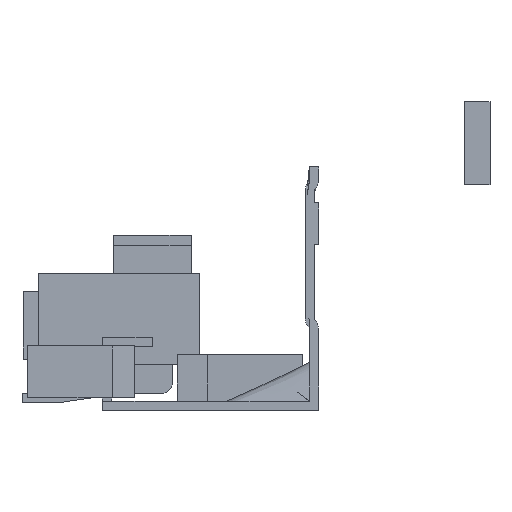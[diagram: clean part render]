
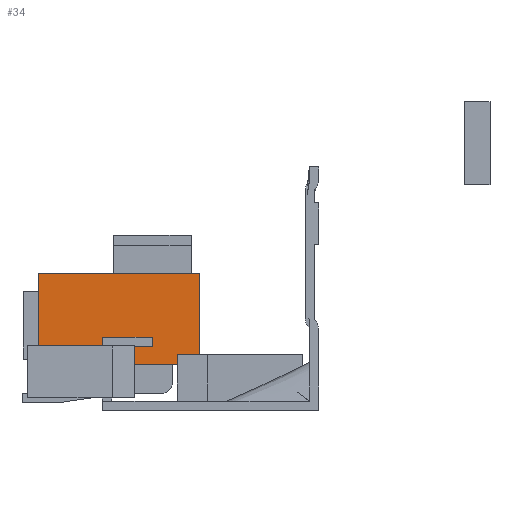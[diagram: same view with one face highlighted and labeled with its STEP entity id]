
A CAD part, front view. The second image highlights one B-rep face of the part: STEP entity #34.
In plain terms, the highlighted planar face has unit normal (0, -1, 0).
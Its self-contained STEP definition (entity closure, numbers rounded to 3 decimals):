
#34 = ADVANCED_FACE ( 'NONE', ( #1093 ), #1443, .F. ) ;
#50 = EDGE_LOOP ( 'NONE', ( #513, #512, #511, #510, #509, #508, #507, #506, #505, #504, #503, #502 ) ) ;
#502 = ORIENTED_EDGE ( 'NONE', *, *, #3836, .T. ) ;
#503 = ORIENTED_EDGE ( 'NONE', *, *, #3837, .F. ) ;
#504 = ORIENTED_EDGE ( 'NONE', *, *, #3838, .F. ) ;
#505 = ORIENTED_EDGE ( 'NONE', *, *, #3839, .F. ) ;
#506 = ORIENTED_EDGE ( 'NONE', *, *, #3850, .F. ) ;
#507 = ORIENTED_EDGE ( 'NONE', *, *, #3866, .F. ) ;
#508 = ORIENTED_EDGE ( 'NONE', *, *, #3876, .T. ) ;
#509 = ORIENTED_EDGE ( 'NONE', *, *, #3890, .T. ) ;
#510 = ORIENTED_EDGE ( 'NONE', *, *, #3840, .T. ) ;
#511 = ORIENTED_EDGE ( 'NONE', *, *, #3841, .T. ) ;
#512 = ORIENTED_EDGE ( 'NONE', *, *, #3842, .T. ) ;
#513 = ORIENTED_EDGE ( 'NONE', *, *, #3843, .T. ) ;
#1093 = FACE_OUTER_BOUND ( 'NONE', #50, .T. ) ;
#1146 = LINE ( 'NONE', #3023, #1147 ) ;
#1147 = VECTOR ( 'NONE', #3024, 1000. ) ;
#1148 = LINE ( 'NONE', #3025, #1149 ) ;
#1149 = VECTOR ( 'NONE', #3026, 1000. ) ;
#1150 = LINE ( 'NONE', #3027, #1151 ) ;
#1151 = VECTOR ( 'NONE', #3028, 1000. ) ;
#1152 = LINE ( 'NONE', #3029, #1153 ) ;
#1153 = VECTOR ( 'NONE', #3030, 1000. ) ;
#1154 = LINE ( 'NONE', #3031, #1155 ) ;
#1155 = VECTOR ( 'NONE', #3032, 1000. ) ;
#1156 = LINE ( 'NONE', #3033, #1157 ) ;
#1157 = VECTOR ( 'NONE', #3034, 1000. ) ;
#1158 = LINE ( 'NONE', #3035, #1159 ) ;
#1159 = VECTOR ( 'NONE', #3036, 1000. ) ;
#1160 = LINE ( 'NONE', #3037, #1161 ) ;
#1161 = VECTOR ( 'NONE', #3038, 1000. ) ;
#1174 = LINE ( 'NONE', #3051, #1175 ) ;
#1175 = VECTOR ( 'NONE', #3052, 1000. ) ;
#1206 = LINE ( 'NONE', #3083, #1207 ) ;
#1207 = VECTOR ( 'NONE', #3084, 1000. ) ;
#1226 = LINE ( 'NONE', #3103, #1227 ) ;
#1227 = VECTOR ( 'NONE', #3104, 1000. ) ;
#1254 = LINE ( 'NONE', #3131, #1255 ) ;
#1255 = VECTOR ( 'NONE', #3132, 1000. ) ;
#1440 = DIRECTION ( 'NONE',  ( -1., 0., 0. ) ) ;
#1441 = DIRECTION ( 'NONE',  ( 0., 1., 0. ) ) ;
#1442 = CARTESIAN_POINT ( 'NONE',  ( -49.9, -20., -27.058 ) ) ;
#1443 = PLANE ( 'NONE',  #4270 ) ;
#1568 = VERTEX_POINT ( 'NONE', #2769 ) ;
#1572 = VERTEX_POINT ( 'NONE', #2773 ) ;
#1573 = VERTEX_POINT ( 'NONE', #2774 ) ;
#1578 = VERTEX_POINT ( 'NONE', #2779 ) ;
#1581 = VERTEX_POINT ( 'NONE', #2782 ) ;
#1582 = VERTEX_POINT ( 'NONE', #2783 ) ;
#1611 = VERTEX_POINT ( 'NONE', #2812 ) ;
#1614 = VERTEX_POINT ( 'NONE', #2815 ) ;
#1615 = VERTEX_POINT ( 'NONE', #2816 ) ;
#1621 = VERTEX_POINT ( 'NONE', #2822 ) ;
#1625 = VERTEX_POINT ( 'NONE', #2826 ) ;
#1628 = VERTEX_POINT ( 'NONE', #2829 ) ;
#2769 = CARTESIAN_POINT ( 'NONE',  ( -22.9, -20., -25.181 ) ) ;
#2773 = CARTESIAN_POINT ( 'NONE',  ( -27.15, -20., -25.181 ) ) ;
#2774 = CARTESIAN_POINT ( 'NONE',  ( -35.5, -20., -23.581 ) ) ;
#2779 = CARTESIAN_POINT ( 'NONE',  ( -32., -20., -23.581 ) ) ;
#2782 = CARTESIAN_POINT ( 'NONE',  ( -32., -20., -21.831 ) ) ;
#2783 = CARTESIAN_POINT ( 'NONE',  ( -27.15, -20., -27.058 ) ) ;
#2812 = CARTESIAN_POINT ( 'NONE',  ( -41.6, -20., -23.531 ) ) ;
#2815 = CARTESIAN_POINT ( 'NONE',  ( -41.6, -20., -21.831 ) ) ;
#2816 = CARTESIAN_POINT ( 'NONE',  ( -35.5, -20., -27.058 ) ) ;
#2822 = CARTESIAN_POINT ( 'NONE',  ( -22.9, -20., -9.558 ) ) ;
#2826 = CARTESIAN_POINT ( 'NONE',  ( -53.9, -20., -9.558 ) ) ;
#2829 = CARTESIAN_POINT ( 'NONE',  ( -53.9, -20., -23.531 ) ) ;
#3023 = CARTESIAN_POINT ( 'NONE',  ( -35.5, -20., -27.058 ) ) ;
#3024 = DIRECTION ( 'NONE',  ( 0., 0., -1. ) ) ;
#3025 = CARTESIAN_POINT ( 'NONE',  ( -32., -20., -23.581 ) ) ;
#3026 = DIRECTION ( 'NONE',  ( 1., 0., 0. ) ) ;
#3027 = CARTESIAN_POINT ( 'NONE',  ( -32., -20., -21.831 ) ) ;
#3028 = DIRECTION ( 'NONE',  ( 0., 0., 1. ) ) ;
#3029 = CARTESIAN_POINT ( 'NONE',  ( -41.6, -20., -21.831 ) ) ;
#3030 = DIRECTION ( 'NONE',  ( -1., 0., 0. ) ) ;
#3031 = CARTESIAN_POINT ( 'NONE',  ( -22.9, -20., -27.058 ) ) ;
#3032 = DIRECTION ( 'NONE',  ( 0., 0., 1. ) ) ;
#3033 = CARTESIAN_POINT ( 'NONE',  ( -49.9, -20., -25.181 ) ) ;
#3034 = DIRECTION ( 'NONE',  ( 1., 0., 0. ) ) ;
#3035 = CARTESIAN_POINT ( 'NONE',  ( -27.15, -20., -27.058 ) ) ;
#3036 = DIRECTION ( 'NONE',  ( 0., 0., 1. ) ) ;
#3037 = CARTESIAN_POINT ( 'NONE',  ( -49.9, -20., -27.058 ) ) ;
#3038 = DIRECTION ( 'NONE',  ( 1., 0., 0. ) ) ;
#3051 = CARTESIAN_POINT ( 'NONE',  ( -41.6, -20., -35.931 ) ) ;
#3052 = DIRECTION ( 'NONE',  ( 0., 0., -1. ) ) ;
#3083 = CARTESIAN_POINT ( 'NONE',  ( -49.9, -20., -23.531 ) ) ;
#3084 = DIRECTION ( 'NONE',  ( -1., 0., 0. ) ) ;
#3103 = CARTESIAN_POINT ( 'NONE',  ( -53.9, -20., -29.558 ) ) ;
#3104 = DIRECTION ( 'NONE',  ( 0., 0., -1. ) ) ;
#3131 = CARTESIAN_POINT ( 'NONE',  ( -53.9, -20., -9.558 ) ) ;
#3132 = DIRECTION ( 'NONE',  ( -1., 0., 0. ) ) ;
#3836 = EDGE_CURVE ( 'NONE', #1573, #1615, #1146, .T. ) ;
#3837 = EDGE_CURVE ( 'NONE', #1573, #1578, #1148, .T. ) ;
#3838 = EDGE_CURVE ( 'NONE', #1578, #1581, #1150, .T. ) ;
#3839 = EDGE_CURVE ( 'NONE', #1581, #1614, #1152, .T. ) ;
#3840 = EDGE_CURVE ( 'NONE', #1568, #1621, #1154, .T. ) ;
#3841 = EDGE_CURVE ( 'NONE', #1572, #1568, #1156, .T. ) ;
#3842 = EDGE_CURVE ( 'NONE', #1582, #1572, #1158, .T. ) ;
#3843 = EDGE_CURVE ( 'NONE', #1615, #1582, #1160, .T. ) ;
#3850 = EDGE_CURVE ( 'NONE', #1614, #1611, #1174, .T. ) ;
#3866 = EDGE_CURVE ( 'NONE', #1611, #1628, #1206, .T. ) ;
#3876 = EDGE_CURVE ( 'NONE', #1625, #1628, #1226, .T. ) ;
#3890 = EDGE_CURVE ( 'NONE', #1621, #1625, #1254, .T. ) ;
#4270 = AXIS2_PLACEMENT_3D ( 'NONE', #1442, #1441, #1440 ) ;
